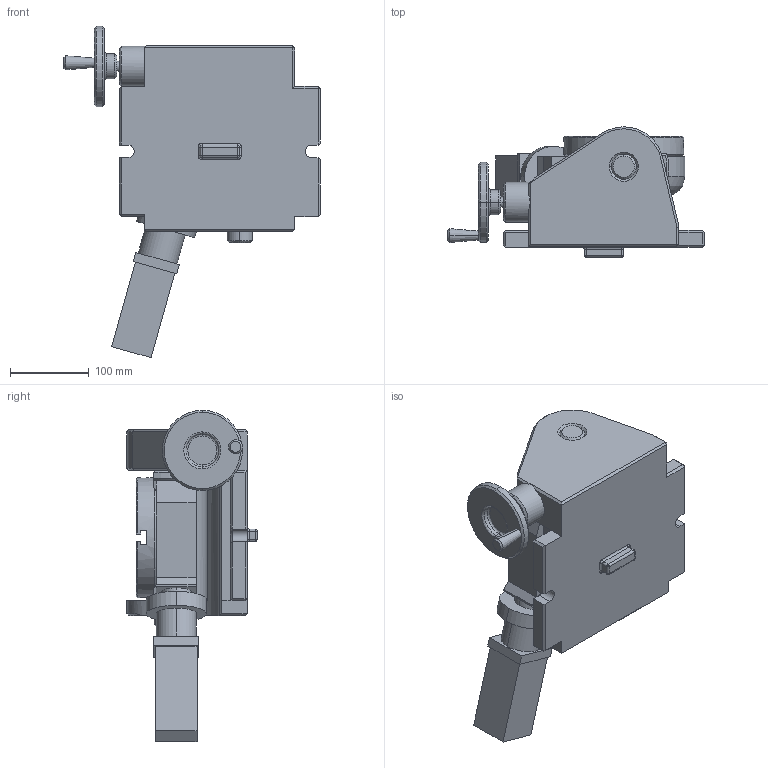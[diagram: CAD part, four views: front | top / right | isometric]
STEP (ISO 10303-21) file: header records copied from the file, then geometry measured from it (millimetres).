
FILE_DESCRIPTION (( 'STEP AP214' ), '1' );
FILE_NAME ('31847 6-INCH TILTING TABLE.STEP', '2013-11-05T16:59:23', ( '' ), ( '' ), 'SwSTEP 2.0', 'SolidWorks 2012', '' );
FILE_SCHEMA (( 'AUTOMOTIVE_DESIGN' ));
Length unit declared in the file: inch
Products named in the file (4): 31847 6-INCH TILTING TABLE; 31847 TABLE BASE; 31847 TILTING MECHANISM; 31847 ROTARY PLATE
Assembly tree (3 placements, depth 2):
  31847 6-INCH TILTING TABLE
    31847 TABLE BASE
    31847 TILTING MECHANISM
    31847 ROTARY PLATE
Bounding box: 324.23 x 164.83 x 419.51 mm (x, y, z)
Volume: 5191215 mm3; surface area: 448509.1 mm2
Topology: 3 solids, 3 shells, 330 faces, 842 edges, 528 vertices
Faces by surface type: plane 181, cylinder 85, cone 51, bspline 13
Entity records: 11130 total; most frequent: CARTESIAN_POINT 2971, DIRECTION 1680, ORIENTED_EDGE 1676, EDGE_CURVE 838, AXIS2_PLACEMENT_3D 576, VERTEX_POINT 528, LINE 528, VECTOR 528
